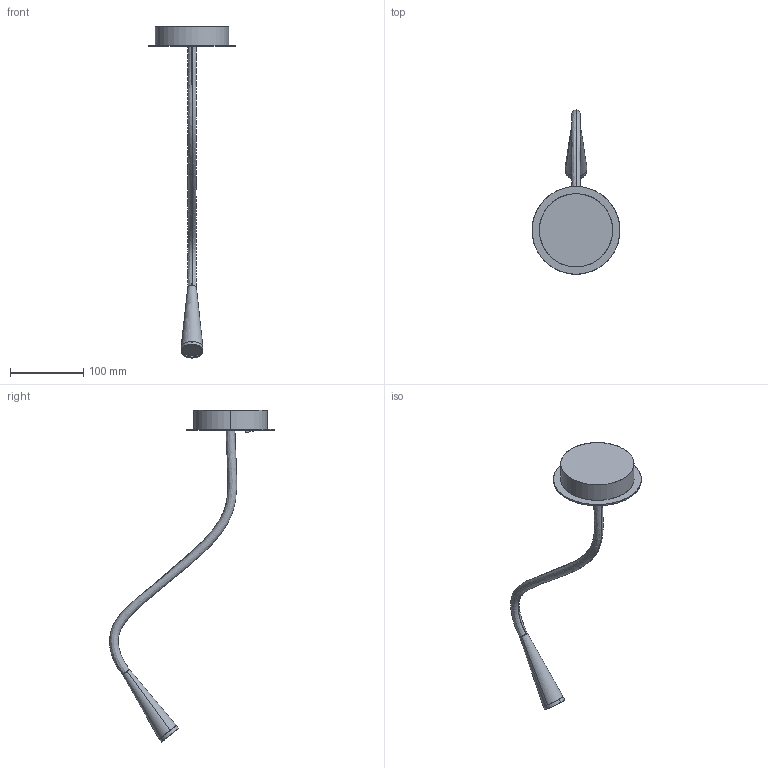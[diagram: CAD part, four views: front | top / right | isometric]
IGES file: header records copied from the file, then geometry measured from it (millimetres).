
Start section: SolidWorks IGES file using analytic representation for surfaces
Global section: file name: C:\Users\Agustin\Desktop\ANGELA\2026\CORRECCIONES\FLEXI_LEATHER\3D\FLEXI LEATHER.IGS; native system: SolidWorks 2023; preprocessor: SolidWorks 2023; author: Agustin; date: 260122.174648; units: millimetre
Bounding box: 120 x 225.18 x 453.58 mm (x, y, z)
Surface area: 71947.4 mm2 (no closed solid volume)
Topology: 0 solids, 0 shells, 34 faces, 724 edges, 724 vertices
Faces by surface type: bspline 25, revolution 9
